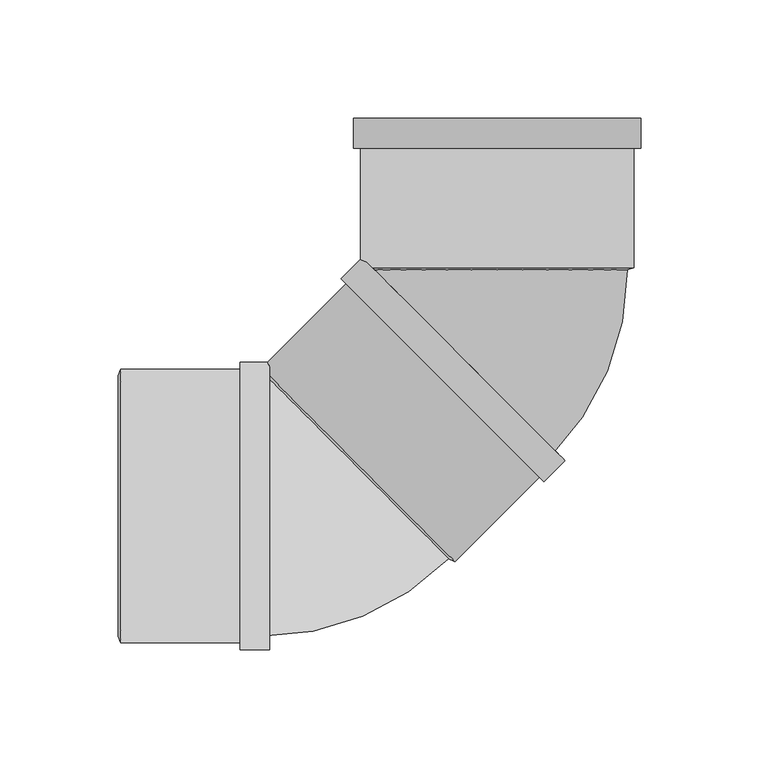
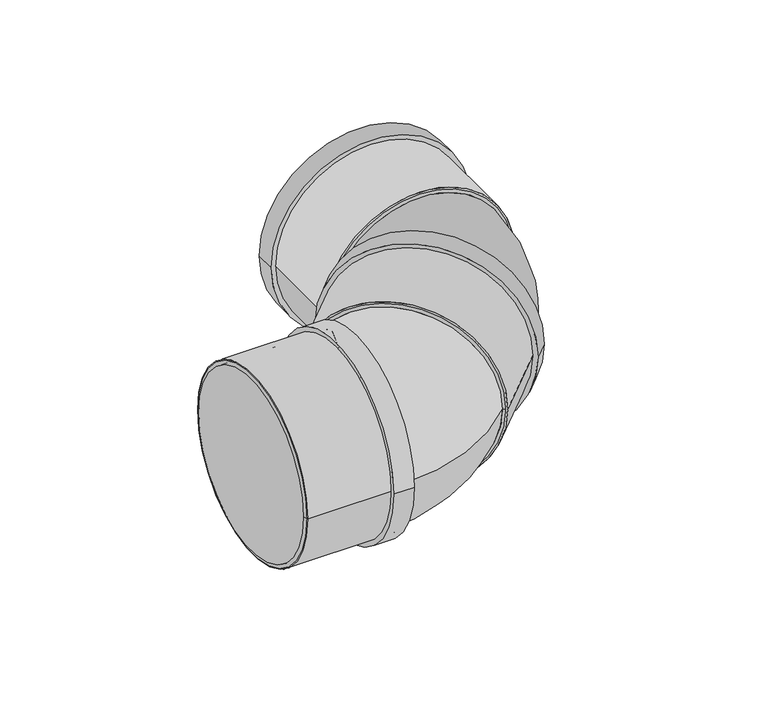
"""IFC4 building model written with IfcOpenShell, lengths in millimetres: pipe fitting geometry, Superdrain HT Bend Composite 2x45 : Superdrain HT Bend Composite 2x45."""

from ifc_helpers import new_model, si_unit, point, frame, origin, origin_2d, place, context, project, spatial, polyline, circle_curve, ellipse_curve, trimmed, segment, composite_curve, outline, extrude, source, transform, mapped, element, save
from ifc_brep_helpers import plane_surface, revolved_surface, advanced_brep


def pipe_fitting_ba0c42a6(model_context):
    return source(origin(), model_context, "Body", "SolidModel", [
        advanced_brep(
        [(55.0, 99.6846897, 0.0), (-55.0, 99.6846897, 0.0), (22.2031529, 20.5060967, 0.0), (-55.578593, 98.2878426, 0.0)],
        [
            (0, 1, circle_curve(frame((0.0, 99.6846897, 0.0), z_axis=(0.0, 0.9999999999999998, 0.0), x_axis=(-0.9999999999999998, 0.0, 0.0)), 55.0)),
            (1, 0, circle_curve(frame((0.0, 99.6846897, 0.0), z_axis=(0.0, 0.9999999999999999, 0.0), x_axis=(-0.9999999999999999, 0.0, 0.0)), 55.0)),
            (2, 3, circle_curve(frame((-16.68772, 59.3969696, 0.0), z_axis=(-0.7071067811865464, -0.7071067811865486, 0.0), x_axis=(-0.7071067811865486, 0.7071067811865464, 0.0)), 55.0)),
            (3, 2, circle_curve(frame((-16.68772, 59.3969696, 0.0), z_axis=(-0.7071067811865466, -0.7071067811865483, 0.0), x_axis=(-0.7071067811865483, 0.7071067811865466, 0.0)), 55.0)),
            (3, 1, circle_curve(frame((-56.9754401, 99.6846897, 0.0), z_axis=(0.0, 0.0, 1.0), x_axis=(0.7071067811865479, 0.707106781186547, 0.0)), 1.9754401)),
            (0, 2, circle_curve(frame((-56.9754401, 99.6846897, 0.0), z_axis=(0.0, 0.0, -1.0), x_axis=(0.7071067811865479, 0.707106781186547, 0.0)), 111.9754401)),
        ],
        [
            plane_surface(frame((0.0, 99.6846897, 0.0), z_axis=(0.0, 1.0, 0.0), x_axis=(0.0, 0.0, -1.0))),
            plane_surface(frame((-16.68772, 59.3969696, 0.0), z_axis=(-0.7071067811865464, -0.7071067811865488, 0.0), x_axis=(0.0, 0.0, -1.0))),
            revolved_surface(trimmed(ellipse_curve(frame((-16.68772, 139.9724097, 0.0), z_axis=(0.7071067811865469, -0.707106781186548, 0.0), x_axis=(-0.707106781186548, -0.7071067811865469, 0.0)), 55.0, 55.0), [point((-55.578593, 101.0815367, 0.0))], [point((22.2031529, 178.8632827, 0.0))], True, "CARTESIAN"), (-56.9754401, 99.6846897, 0.0), (0.0, 0.0, 1.0)),
            revolved_surface(trimmed(ellipse_curve(frame((-16.68772, 139.9724097, 0.0), z_axis=(0.7071067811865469, -0.707106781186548, 0.0), x_axis=(-0.707106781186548, -0.7071067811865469, 0.0)), 55.0, 55.0), [point((22.2031529, 178.8632827, 0.0))], [point((-55.578593, 101.0815367, 0.0))], True, "CARTESIAN"), (-56.9754401, 99.6846897, 0.0), (0.0, 0.0, 1.0)),
        ],
        [
            (0, [[1, 2]]),
            (1, [[3, 4]]),
            (2, [[-4, 5, -1, 6]]),
            (3, [[-3, -6, -2, -5]]),
        ],
    ),
        extrude(outline(composite_curve([segment(trimmed(circle_curve(origin_2d(), 57.75), [point((0.0, 57.75))], [point((0.0, -57.75))], False, "CARTESIAN"), True, "CONTINUOUS"), segment(trimmed(circle_curve(origin_2d(), 57.75), [point((0.0, -57.75))], [point((0.0, 57.75))], False, "CARTESIAN"), True, "CONTINUOUS")], self_intersect=False), holes=[composite_curve([segment(trimmed(circle_curve(origin_2d(), 55.0), [point((0.0, 55.0))], [point((0.0, -55.0))], True, "CARTESIAN"), True, "CONTINUOUS"), segment(trimmed(circle_curve(origin_2d(), 55.0), [point((0.0, -55.0))], [point((0.0, 55.0))], True, "CARTESIAN"), True, "CONTINUOUS")], self_intersect=False)]), frame((0.0, 100.6846897, 0.0), z_axis=(0.0, 1.0, 0.0), x_axis=(0.0, 0.0, 1.0)), (0.0, 0.0, 1.0), 63.0),
        extrude(outline(composite_curve([segment(trimmed(circle_curve(origin_2d(), 60.6375), [point((0.0, -60.6375))], [point((0.0, 60.6375))], False, "CARTESIAN"), True, "CONTINUOUS"), segment(trimmed(circle_curve(origin_2d(), 60.6375), [point((0.0, 60.6375))], [point((0.0, -60.6375))], False, "CARTESIAN"), True, "CONTINUOUS")], self_intersect=False), holes=[composite_curve([segment(trimmed(circle_curve(origin_2d(), 55.0), [point((0.0, -55.0))], [point((0.0, 55.0))], True, "CARTESIAN"), True, "CONTINUOUS"), segment(trimmed(circle_curve(origin_2d(), 55.0), [point((0.0, 55.0))], [point((0.0, -55.0))], True, "CARTESIAN"), True, "CONTINUOUS")], self_intersect=False)]), frame((0.0, 151.0846897, 0.0), z_axis=(0.0, 1.0, 0.0), x_axis=(0.0, 0.0, 1.0)), (0.0, 0.0, 1.0), 12.6),
        advanced_brep(
        [(57.75, 100.6846897, 0.0), (-57.75, 100.6846897, 0.0), (55.0, 99.6846897, 0.0), (-55.0, 99.6846897, 0.0)],
        [
            (0, 1, circle_curve(frame((0.0, 100.6846897, 0.0), z_axis=(0.0, 1.0, 0.0), x_axis=(1.0, 0.0, 0.0)), 57.75)),
            (1, 0, circle_curve(frame((0.0, 100.6846897, 0.0), z_axis=(0.0, 1.0, 0.0), x_axis=(-1.0, 0.0, 0.0)), 57.75)),
            (2, 3, circle_curve(frame((0.0, 99.6846897, 0.0), z_axis=(0.0, -1.0, 0.0), x_axis=(-1.0, 0.0, 0.0)), 55.0)),
            (3, 2, circle_curve(frame((0.0, 99.6846897, 0.0), z_axis=(0.0, -1.0, 0.0), x_axis=(1.0, 0.0, 0.0)), 55.0)),
            (3, 1),
            (0, 2),
        ],
        [
            plane_surface(frame((0.0, 100.6846897, 0.0), z_axis=(0.0, 1.0, 0.0), x_axis=(0.0, 0.0, -1.0))),
            plane_surface(frame((0.0, 99.6846897, 0.0), z_axis=(0.0, -1.0, 0.0), x_axis=(0.0, 0.0, -1.0))),
            revolved_surface(polyline([(-55.0, 99.6846897, 0.0), (-57.75, 100.6846897, 0.0)]), (0.0, 79.6846897, 0.0), (0.0, 0.9999999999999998, 0.0)),
            revolved_surface(polyline([(55.0, 99.6846897, 0.0), (57.75, 100.6846897, 0.0)]), (0.0, 79.6846897, 0.0), (0.0, 0.9999999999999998, 0.0)),
        ],
        [
            (0, [[1, 2]]),
            (1, [[3, 4]]),
            (2, [[-4, 5, -1, 6]]),
            (3, [[-3, -6, -2, -5]]),
        ],
    ),
        extrude(outline(composite_curve([segment(trimmed(circle_curve(origin_2d(), 55.0), [point((0.0, -54.9999999))], [point((0.0, 55.0))], False, "CARTESIAN"), True, "CONTINUOUS"), segment(trimmed(circle_curve(origin_2d(), 55.0), [point((0.0, 55.0))], [point((0.0, -54.9999999))], False, "CARTESIAN"), True, "CONTINUOUS")], self_intersect=False)), frame((-58.6898628, 17.3948268, 0.0), z_axis=(0.707106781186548, 0.7071067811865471, 0.0), x_axis=(0.0, 0.0, -1.0)), (0.0, 0.0, 1.0), 59.4),
        extrude(outline(composite_curve([segment(trimmed(circle_curve(origin_2d(), 57.75), [point((57.75, 0.0))], [point((-57.75, 0.0))], False, "CARTESIAN"), True, "CONTINUOUS"), segment(trimmed(circle_curve(origin_2d(), 57.75), [point((-57.75, 0.0))], [point((57.75, 0.0))], False, "CARTESIAN"), True, "CONTINUOUS")], self_intersect=False), holes=[composite_curve([segment(trimmed(circle_curve(origin_2d(), 55.0), [point((55.0, 0.0))], [point((-55.0, 0.0))], True, "CARTESIAN"), True, "CONTINUOUS"), segment(trimmed(circle_curve(origin_2d(), 55.0), [point((-55.0, 0.0))], [point((55.0, 0.0))], True, "CARTESIAN"), True, "CONTINUOUS")], self_intersect=False)]), frame((-159.0846897, 0.0, 0.0), z_axis=(1.0, 0.0, 0.0), x_axis=(0.0, 1.0, 0.0)), (0.0, 0.0, 1.0), 63.0),
        extrude(outline(composite_curve([segment(trimmed(circle_curve(origin_2d(), 60.6375), [point((60.6375, 0.0))], [point((-60.6375, 0.0))], False, "CARTESIAN"), True, "CONTINUOUS"), segment(trimmed(circle_curve(origin_2d(), 60.6375), [point((-60.6375, 0.0))], [point((60.6375, 0.0))], False, "CARTESIAN"), True, "CONTINUOUS")], self_intersect=False), holes=[composite_curve([segment(trimmed(circle_curve(origin_2d(), 55.0), [point((55.0, 0.0))], [point((-55.0, 0.0))], True, "CARTESIAN"), True, "CONTINUOUS"), segment(trimmed(circle_curve(origin_2d(), 55.0), [point((-55.0, 0.0))], [point((55.0, 0.0))], True, "CARTESIAN"), True, "CONTINUOUS")], self_intersect=False)]), frame((-108.6846897, 0.0, 0.0), z_axis=(1.0, 0.0, 0.0), x_axis=(0.0, 1.0, 0.0)), (0.0, 0.0, 1.0), 12.6),
        advanced_brep(
        [(-160.0846897, 55.0, 0.0), (-160.0846897, -55.0, 0.0), (-159.0846897, 57.75, 0.0), (-159.0846897, -57.75, 0.0)],
        [
            (0, 1, circle_curve(frame((-160.0846897, 0.0, 0.0), z_axis=(-1.0, 0.0, 0.0), x_axis=(0.0, 1.0, 0.0)), 55.0)),
            (1, 0, circle_curve(frame((-160.0846897, 0.0, 0.0), z_axis=(-1.0, 0.0, 0.0), x_axis=(0.0, -1.0, 0.0)), 55.0)),
            (2, 3, circle_curve(frame((-159.0846897, 0.0, 0.0), z_axis=(1.0, 0.0, 0.0), x_axis=(0.0, -1.0, 0.0)), 57.75)),
            (3, 2, circle_curve(frame((-159.0846897, 0.0, 0.0), z_axis=(1.0, 0.0, 0.0), x_axis=(0.0, 1.0, 0.0)), 57.75)),
            (3, 1),
            (0, 2),
        ],
        [
            plane_surface(frame((-160.0846897, 0.0, 0.0), z_axis=(-1.0, 0.0, 0.0), x_axis=(0.0, 0.0, -1.0))),
            plane_surface(frame((-159.0846897, 0.0, 0.0), z_axis=(1.0, 0.0, 0.0), x_axis=(0.0, 0.0, -1.0))),
            revolved_surface(polyline([(-160.0846897, 55.0, 0.0), (-159.0846897, 57.75, 0.0)]), (-180.0846897, 0.0, 0.0), (1.0, 0.0, 0.0)),
            revolved_surface(polyline([(-160.0846897, -55.0, 0.0), (-159.0846897, -57.75, 0.0)]), (-180.0846897, 0.0, 0.0), (1.0, 0.0, 0.0)),
        ],
        [
            (0, [[1, 2]]),
            (1, [[3, 4]]),
            (2, [[-4, 5, -1, 6]]),
            (3, [[-3, -6, -2, -5]]),
        ],
    ),
        advanced_brep(
        [(-20.5060967, -22.2031529, 0.0), (-98.2878426, 55.578593, 0.0), (-99.6846897, -55.0, 0.0), (-99.6846897, 55.0, 0.0)],
        [
            (0, 1, circle_curve(frame((-59.3969696, 16.68772, 0.0), z_axis=(0.7071067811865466, 0.7071067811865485, 0.0), x_axis=(-0.7071067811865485, 0.7071067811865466, 0.0)), 55.0)),
            (1, 0, circle_curve(frame((-59.3969696, 16.68772, 0.0), z_axis=(0.7071067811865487, 0.7071067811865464, 0.0), x_axis=(-0.7071067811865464, 0.7071067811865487, 0.0)), 55.0)),
            (2, 3, circle_curve(frame((-99.6846897, 0.0, 0.0), z_axis=(-1.0, 0.0, 0.0), x_axis=(0.0, 1.0, 0.0)), 55.0)),
            (3, 2, circle_curve(frame((-99.6846897, 0.0, 0.0), z_axis=(-1.0, 0.0, 0.0), x_axis=(0.0, 1.0, 0.0)), 55.0)),
            (3, 1, circle_curve(frame((-99.6846897, 56.9754401, 0.0), z_axis=(0.0, 0.0, 1.0), x_axis=(1.0, 0.0, 0.0)), 1.9754401)),
            (0, 2, circle_curve(frame((-99.6846897, 56.9754401, 0.0), z_axis=(0.0, 0.0, -1.0), x_axis=(1.0, 0.0, 0.0)), 111.9754401)),
        ],
        [
            plane_surface(frame((-59.3969696, 16.68772, 0.0), z_axis=(0.7071067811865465, 0.7071067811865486, 0.0), x_axis=(0.0, 0.0, -1.0))),
            plane_surface(frame((-99.6846897, 0.0, 0.0), z_axis=(-1.0, 0.0, 0.0), x_axis=(0.0, 0.0, -1.0))),
            revolved_surface(trimmed(ellipse_curve(frame((-42.7092496, 56.9754401, 0.0), z_axis=(0.0, -1.0, 0.0), x_axis=(-1.0, 0.0, 0.0)), 55.0, 55.0), [point((-97.7092496, 56.9754401, 0.0))], [point((12.2907504, 56.9754401, 0.0))], True, "CARTESIAN"), (-99.6846897, 56.9754401, 0.0), (0.0, 0.0, 1.0)),
            revolved_surface(trimmed(ellipse_curve(frame((-42.7092496, 56.9754401, 0.0), z_axis=(0.0, -1.0, 0.0), x_axis=(-1.0, 0.0, 0.0)), 55.0, 55.0), [point((12.2907504, 56.9754401, 0.0))], [point((-97.7092496, 56.9754401, 0.0))], True, "CARTESIAN"), (-99.6846897, 56.9754401, 0.0), (0.0, 0.0, 1.0)),
        ],
        [
            (0, [[1, 2]]),
            (1, [[3, 4]]),
            (2, [[-4, 5, -1, 6]]),
            (3, [[-3, -6, -2, -5]]),
        ],
    ),
        extrude(outline(composite_curve([segment(trimmed(circle_curve(origin_2d(), 57.75), [point((0.0, 57.75))], [point((0.0, -57.7500001))], False, "CARTESIAN"), True, "CONTINUOUS"), segment(trimmed(circle_curve(origin_2d(), 57.75), [point((0.0, -57.7500001))], [point((0.0, 57.75))], False, "CARTESIAN"), True, "CONTINUOUS")], self_intersect=False), holes=[composite_curve([segment(trimmed(circle_curve(origin_2d(), 55.0), [point((0.0, 54.9999999))], [point((0.0, -55.0))], True, "CARTESIAN"), True, "CONTINUOUS"), segment(trimmed(circle_curve(origin_2d(), 55.0), [point((0.0, -55.0))], [point((0.0, 54.9999999))], True, "CARTESIAN"), True, "CONTINUOUS")], self_intersect=False)]), frame((-58.6898628, 17.3948268, 0.0), z_axis=(0.7071067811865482, 0.7071067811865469, 0.0), x_axis=(0.0, 0.0, 1.0)), (0.0, 0.0, 1.0), 63.0),
        extrude(outline(composite_curve([segment(trimmed(circle_curve(origin_2d(), 60.6375), [point((0.0, -60.6374999))], [point((0.0, 60.6375001))], False, "CARTESIAN"), True, "CONTINUOUS"), segment(trimmed(circle_curve(origin_2d(), 60.6375), [point((0.0, 60.6375001))], [point((0.0, -60.6374999))], False, "CARTESIAN"), True, "CONTINUOUS")], self_intersect=False), holes=[composite_curve([segment(trimmed(circle_curve(origin_2d(), 55.0), [point((0.0, -55.0))], [point((0.0, 55.0))], True, "CARTESIAN"), True, "CONTINUOUS"), segment(trimmed(circle_curve(origin_2d(), 55.0), [point((0.0, 55.0))], [point((0.0, -55.0))], True, "CARTESIAN"), True, "CONTINUOUS")], self_intersect=False)]), frame((-23.0516811, 53.0330086, 0.0), z_axis=(0.7071067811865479, 0.7071067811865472, 0.0), x_axis=(0.0, 0.0, 1.0)), (0.0, 0.0, 1.0), 12.6),
        advanced_brep(
        [(-17.8544462, -23.4405898, 0.0), (-99.5252795, 58.2302434, 0.0), (-20.5060967, -22.2031529, 0.0), (-98.2878426, 55.578593, 0.0)],
        [
            (0, 1, circle_curve(frame((-58.6898628, 17.3948268, 0.0), z_axis=(0.7071067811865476, 0.7071067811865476, 0.0), x_axis=(0.7071067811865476, -0.7071067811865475, 0.0)), 57.75)),
            (1, 0, circle_curve(frame((-58.6898628, 17.3948268, 0.0), z_axis=(0.7071067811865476, 0.7071067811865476, 0.0), x_axis=(-0.7071067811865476, 0.7071067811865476, 0.0)), 57.75)),
            (2, 3, circle_curve(frame((-59.3969696, 16.68772, 0.0), z_axis=(-0.7071067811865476, -0.7071067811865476, 0.0), x_axis=(-0.7071067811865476, 0.7071067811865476, 0.0)), 55.0)),
            (3, 2, circle_curve(frame((-59.3969696, 16.68772, 0.0), z_axis=(-0.7071067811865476, -0.7071067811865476, 0.0), x_axis=(0.7071067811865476, -0.7071067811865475, 0.0)), 55.0)),
            (3, 1),
            (0, 2),
        ],
        [
            plane_surface(frame((-58.6898628, 17.3948268, 0.0), z_axis=(0.7071067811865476, 0.7071067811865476, 0.0), x_axis=(0.0, 0.0, -1.0))),
            plane_surface(frame((-59.3969696, 16.68772, 0.0), z_axis=(-0.7071067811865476, -0.7071067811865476, 0.0), x_axis=(0.0, 0.0, -1.0))),
            revolved_surface(polyline([(-98.28784267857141, 55.5785930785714, 0.0), (-99.5252795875, 58.230243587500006, 0.0)]), (-73.5391052, 2.5455844, 0.0), (0.7071067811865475, 0.7071067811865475, 0.0)),
            revolved_surface(polyline([(-20.50609670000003, -22.203152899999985, 0.0), (-17.854446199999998, -23.4405898, 0.0)]), (-73.5391052, 2.5455844, 0.0), (0.7071067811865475, 0.7071067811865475, 0.0)),
        ],
        [
            (0, [[1, 2]]),
            (1, [[3, 4]]),
            (2, [[-4, 5, -1, 6]]),
            (3, [[-3, -6, -2, -5]]),
        ],
    ),
        extrude(outline(composite_curve([segment(trimmed(circle_curve(origin_2d(), 55.0), [point((-55.0, 0.0))], [point((55.0, 0.0))], False, "CARTESIAN"), True, "CONTINUOUS"), segment(trimmed(circle_curve(origin_2d(), 55.0), [point((55.0, 0.0))], [point((-55.0, 0.0))], False, "CARTESIAN"), True, "CONTINUOUS")], self_intersect=False)), frame((-159.0846897, 0.0, 0.0), z_axis=(1.0, 0.0, 0.0), x_axis=(0.0, 1.0, 0.0)), (0.0, 0.0, 1.0), 59.4),
    ])


if __name__ == "__main__":
    model = new_model("IFC4")
    model_context = context("Model", 3, world=origin())
    ifc_project = project(units=[si_unit("LENGTHUNIT", "METRE", prefix="MILLI")], contexts=[model_context])
    site = spatial("IfcSite", under=ifc_project)
    building = spatial("IfcBuilding", under=site)
    placement = place(None, origin())
    pipe_fitting_shape = pipe_fitting_ba0c42a6(model_context)
    element("IfcPipeFitting", 1, ObjectType="Superdrain HT Bend Composite 2x45 : Superdrain HT Bend Composite 2x45", at=placement, inside=building, context=model_context, shape_type="MappedRepresentation", body=[
        mapped(pipe_fitting_shape, transform((0.0, 0.0, 0.0), x_axis=(1.0, 0.0, 0.0), y_axis=(0.0, 1.0, 0.0), z_axis=(0.0, 0.0, 1.0))),
    ])
    save(model, "model.ifc")
